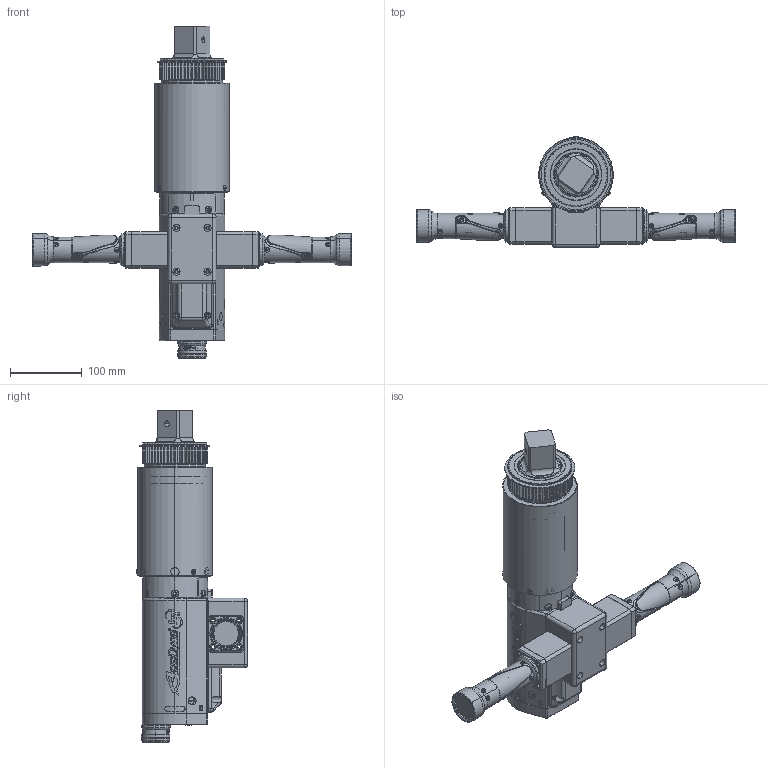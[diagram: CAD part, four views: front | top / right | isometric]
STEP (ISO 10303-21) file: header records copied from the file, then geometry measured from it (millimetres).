
FILE_DESCRIPTION (( 'STEP AP214' ), '1' );
FILE_NAME ('AEF4A896500BDL, AED4B898100BDL.STEP', '2016-08-23T17:13:59', ( 'AIMCO' ), ( '' ), 'SwSTEP 2.0', 'SolidWorks 2016', '' );
FILE_SCHEMA (( 'AUTOMOTIVE_DESIGN' ));
Length unit declared in the file: inch
Products named in the file (1): AEF4A896500BDL, AED4B898100BDL
Bounding box: 443.58 x 155.03 x 461.64 mm (x, y, z)
Surface area: 416934.7 mm2 (no closed solid volume)
Topology: 0 solids, 174 shells, 1627 faces, 5884 edges, 4205 vertices
Faces by surface type: cylinder 542, plane 434, bspline 239, torus 202, cone 192, sphere 18
Entity records: 165576 total; most frequent: CARTESIAN_POINT 98797, DIRECTION 8761, ORIENTED_EDGE 8736, EDGE_CURVE 5876, VERTEX_POINT 4205, AXIS2_PLACEMENT_3D 3373, VECTOR 2015, LINE 2015
